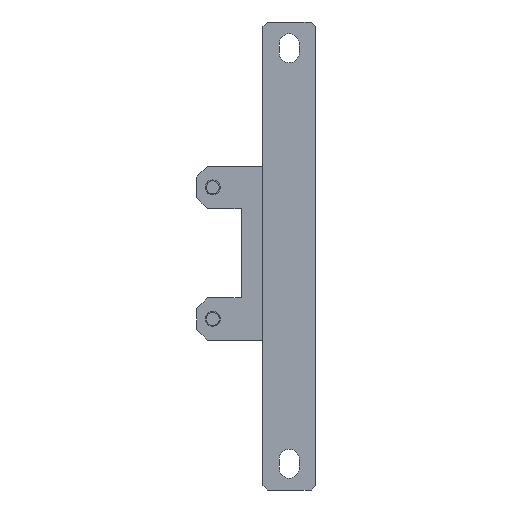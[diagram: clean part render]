
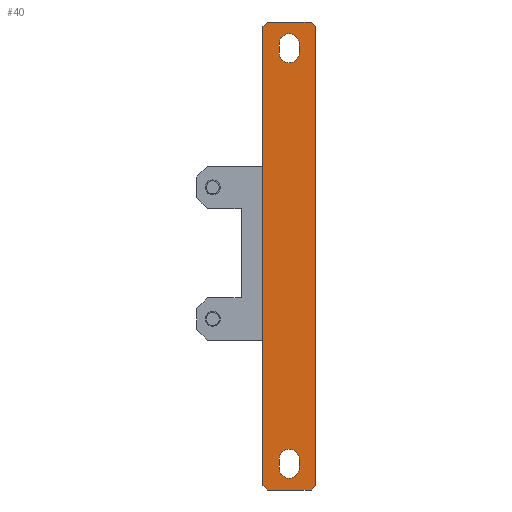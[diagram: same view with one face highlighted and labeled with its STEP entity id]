
A CAD part, front view. The second image highlights one B-rep face of the part: STEP entity #40.
In plain terms, the highlighted planar face has unit normal (0, -1, 0).
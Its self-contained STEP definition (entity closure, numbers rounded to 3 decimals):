
#40=ADVANCED_FACE('',(#99,#100,#101),#98,.F.);
#98=PLANE('',#691);
#99=FACE_OUTER_BOUND('',#692,.T.);
#100=FACE_BOUND('',#693,.T.);
#101=FACE_BOUND('',#694,.T.);
#688=CARTESIAN_POINT('',(-0.7,-5.,-63.5));
#689=DIRECTION('',(0.,1.,0.));
#690=DIRECTION('',(0.,0.,1.));
#691=AXIS2_PLACEMENT_3D('',#688,#689,#690);
#692=EDGE_LOOP('',(#1096,#1097,#1098,#1099,#1100,#1101,#1102,#1103));
#693=EDGE_LOOP('',(#1104,#1105,#1106,#1107));
#694=EDGE_LOOP('',(#1108,#1109,#1110,#1111));
#1096=ORIENTED_EDGE('',*,*,#1376,.F.);
#1097=ORIENTED_EDGE('',*,*,#1377,.F.);
#1098=ORIENTED_EDGE('',*,*,#1378,.F.);
#1099=ORIENTED_EDGE('',*,*,#1379,.F.);
#1100=ORIENTED_EDGE('',*,*,#1380,.F.);
#1101=ORIENTED_EDGE('',*,*,#1381,.F.);
#1102=ORIENTED_EDGE('',*,*,#1382,.F.);
#1103=ORIENTED_EDGE('',*,*,#1383,.F.);
#1104=ORIENTED_EDGE('',*,*,#1384,.T.);
#1105=ORIENTED_EDGE('',*,*,#1385,.F.);
#1106=ORIENTED_EDGE('',*,*,#1386,.T.);
#1107=ORIENTED_EDGE('',*,*,#1387,.F.);
#1108=ORIENTED_EDGE('',*,*,#1388,.T.);
#1109=ORIENTED_EDGE('',*,*,#1389,.F.);
#1110=ORIENTED_EDGE('',*,*,#1390,.T.);
#1111=ORIENTED_EDGE('',*,*,#1391,.F.);
#1376=EDGE_CURVE('',#1516,#1517,#1518,.T.);
#1377=EDGE_CURVE('',#1524,#1516,#1525,.T.);
#1378=EDGE_CURVE('',#1531,#1524,#1532,.T.);
#1379=EDGE_CURVE('',#1538,#1531,#1539,.T.);
#1380=EDGE_CURVE('',#1545,#1538,#1546,.T.);
#1381=EDGE_CURVE('',#1552,#1545,#1553,.T.);
#1382=EDGE_CURVE('',#1559,#1552,#1560,.T.);
#1383=EDGE_CURVE('',#1517,#1559,#1566,.T.);
#1384=EDGE_CURVE('',#1572,#1573,#1574,.T.);
#1385=EDGE_CURVE('',#1580,#1573,#1581,.T.);
#1386=EDGE_CURVE('',#1580,#1587,#1588,.T.);
#1387=EDGE_CURVE('',#1572,#1587,#1594,.T.);
#1388=EDGE_CURVE('',#1600,#1601,#1602,.T.);
#1389=EDGE_CURVE('',#1608,#1601,#1609,.T.);
#1390=EDGE_CURVE('',#1608,#1615,#1616,.T.);
#1391=EDGE_CURVE('',#1600,#1615,#1622,.T.);
#1516=VERTEX_POINT('',#2446);
#1517=VERTEX_POINT('',#2447);
#1518=LINE('',#2448,#2449);
#1524=VERTEX_POINT('',#2451);
#1525=LINE('',#2452,#2453);
#1531=VERTEX_POINT('',#2455);
#1532=LINE('',#2456,#2457);
#1538=VERTEX_POINT('',#2459);
#1539=LINE('',#2460,#2461);
#1545=VERTEX_POINT('',#2463);
#1546=LINE('',#2464,#2465);
#1552=VERTEX_POINT('',#2467);
#1553=LINE('',#2468,#2469);
#1559=VERTEX_POINT('',#2471);
#1560=LINE('',#2472,#2473);
#1566=LINE('',#2475,#2476);
#1572=VERTEX_POINT('',#2478);
#1573=VERTEX_POINT('',#2479);
#1574=LINE('',#2480,#2481);
#1580=VERTEX_POINT('',#2483);
#1581=CIRCLE('',#2487,2.3);
#1587=VERTEX_POINT('',#2488);
#1588=LINE('',#2489,#2490);
#1594=CIRCLE('',#2495,2.3);
#1600=VERTEX_POINT('',#2496);
#1601=VERTEX_POINT('',#2497);
#1602=LINE('',#2498,#2499);
#1608=VERTEX_POINT('',#2501);
#1609=CIRCLE('',#2505,2.3);
#1615=VERTEX_POINT('',#2506);
#1616=LINE('',#2507,#2508);
#1622=CIRCLE('',#2513,2.3);
#2446=CARTESIAN_POINT('',(0.5,-5.,52.5));
#2447=CARTESIAN_POINT('',(1.5,-5.,53.5));
#2448=CARTESIAN_POINT('',(0.5,-5.,52.5));
#2449=VECTOR('',#2450,1.414);
#2450=DIRECTION('',(0.707,0.,0.707));
#2451=CARTESIAN_POINT('',(0.5,-5.,-52.5));
#2452=CARTESIAN_POINT('',(0.5,-5.,-52.5));
#2453=VECTOR('',#2454,105.);
#2454=DIRECTION('',(0.,0.,1.));
#2455=CARTESIAN_POINT('',(1.5,-5.,-53.5));
#2456=CARTESIAN_POINT('',(1.5,-5.,-53.5));
#2457=VECTOR('',#2458,1.414);
#2458=DIRECTION('',(-0.707,0.,0.707));
#2459=CARTESIAN_POINT('',(11.5,-5.,-53.5));
#2460=CARTESIAN_POINT('',(11.5,-5.,-53.5));
#2461=VECTOR('',#2462,10.);
#2462=DIRECTION('',(-1.,0.,0.));
#2463=CARTESIAN_POINT('',(12.5,-5.,-52.5));
#2464=CARTESIAN_POINT('',(12.5,-5.,-52.5));
#2465=VECTOR('',#2466,1.414);
#2466=DIRECTION('',(-0.707,0.,-0.707));
#2467=CARTESIAN_POINT('',(12.5,-5.,52.5));
#2468=CARTESIAN_POINT('',(12.5,-5.,52.5));
#2469=VECTOR('',#2470,105.);
#2470=DIRECTION('',(0.,0.,-1.));
#2471=CARTESIAN_POINT('',(11.5,-5.,53.5));
#2472=CARTESIAN_POINT('',(11.5,-5.,53.5));
#2473=VECTOR('',#2474,1.414);
#2474=DIRECTION('',(0.707,0.,-0.707));
#2475=CARTESIAN_POINT('',(1.5,-5.,53.5));
#2476=VECTOR('',#2477,10.);
#2477=DIRECTION('',(1.,0.,0.));
#2478=CARTESIAN_POINT('',(8.8,-5.,-46.5));
#2479=CARTESIAN_POINT('',(8.8,-5.,-48.5));
#2480=CARTESIAN_POINT('',(8.8,-5.,-46.5));
#2481=VECTOR('',#2482,2.);
#2482=DIRECTION('',(0.,0.,-1.));
#2483=CARTESIAN_POINT('',(4.2,-5.,-48.5));
#2484=CARTESIAN_POINT('',(6.5,-5.,-48.5));
#2485=DIRECTION('',(0.,-1.,0.));
#2486=DIRECTION('',(1.,0.,0.));
#2487=AXIS2_PLACEMENT_3D('',#2484,#2485,#2486);
#2488=CARTESIAN_POINT('',(4.2,-5.,-46.5));
#2489=CARTESIAN_POINT('',(4.2,-5.,-48.5));
#2490=VECTOR('',#2491,2.);
#2491=DIRECTION('',(0.,0.,1.));
#2492=CARTESIAN_POINT('',(6.5,-5.,-46.5));
#2493=DIRECTION('',(0.,-1.,0.));
#2494=DIRECTION('',(0.,0.,-1.));
#2495=AXIS2_PLACEMENT_3D('',#2492,#2493,#2494);
#2496=CARTESIAN_POINT('',(8.8,-5.,48.5));
#2497=CARTESIAN_POINT('',(8.8,-5.,46.5));
#2498=CARTESIAN_POINT('',(8.8,-5.,48.5));
#2499=VECTOR('',#2500,2.);
#2500=DIRECTION('',(0.,0.,-1.));
#2501=CARTESIAN_POINT('',(4.2,-5.,46.5));
#2502=CARTESIAN_POINT('',(6.5,-5.,46.5));
#2503=DIRECTION('',(0.,-1.,0.));
#2504=DIRECTION('',(1.,0.,0.));
#2505=AXIS2_PLACEMENT_3D('',#2502,#2503,#2504);
#2506=CARTESIAN_POINT('',(4.2,-5.,48.5));
#2507=CARTESIAN_POINT('',(4.2,-5.,46.5));
#2508=VECTOR('',#2509,2.);
#2509=DIRECTION('',(0.,0.,1.));
#2510=CARTESIAN_POINT('',(6.5,-5.,48.5));
#2511=DIRECTION('',(0.,-1.,0.));
#2512=DIRECTION('',(0.,0.,-1.));
#2513=AXIS2_PLACEMENT_3D('',#2510,#2511,#2512);
